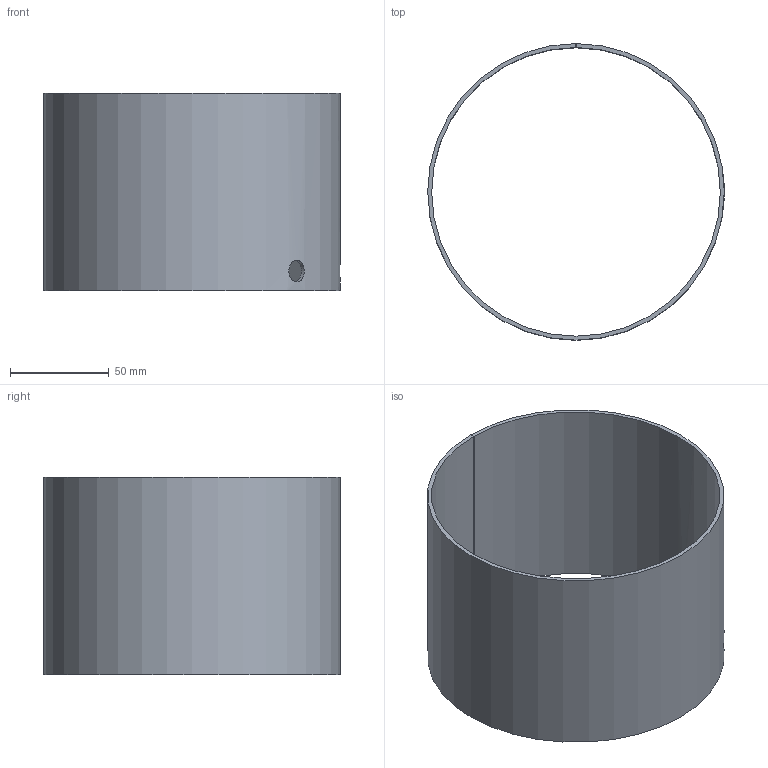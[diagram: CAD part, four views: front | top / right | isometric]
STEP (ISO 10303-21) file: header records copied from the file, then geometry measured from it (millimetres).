
FILE_DESCRIPTION (( 'STEP AP203' ), '1' );
FILE_NAME ('ORW-008.20.106 眈襝鶋鍧.STEP', '2025-10-13T13:18:08', ( '燴僽樥' ), ( '' ), 'SwSTEP 2.0', 'SolidWorks 2025', '' );
FILE_SCHEMA (( 'CONFIG_CONTROL_DESIGN' ));
Length unit declared in the file: millimetre
Products named in the file (1): ORW-008.20.106 Патрубок
Bounding box: 150 x 150 x 100 mm (x, y, z)
Volume: 92541 mm3; surface area: 94908.9 mm2
Topology: 1 solids, 1 shells, 8 faces, 18 edges, 12 vertices
Faces by surface type: plane 4, cylinder 2, bspline 2
Entity records: 643 total; most frequent: CARTESIAN_POINT 395, ORIENTED_EDGE 32, DIRECTION 30, EDGE_CURVE 16, EDGE_LOOP 14, VERTEX_POINT 12, AXIS2_PLACEMENT_3D 11, FACE_OUTER_BOUND 10
